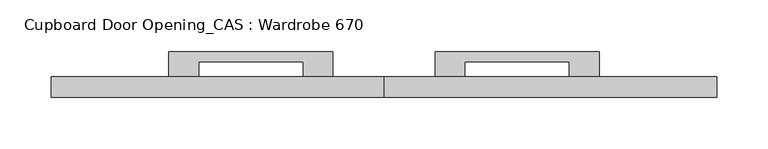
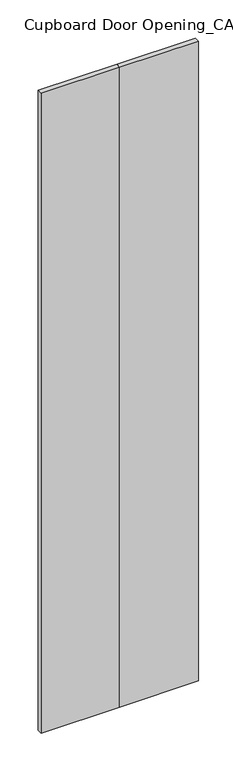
"""IFC4 building model written with IfcOpenShell, lengths in millimetres: furniture geometry, Cupboard Door Opening_CAS : Wardrobe 670."""

from ifc_helpers import new_model, si_unit, frame, origin, origin_with_axes, place, context, project, spatial, polyline, outline, extrude, source, transform, mapped, element, save


def cupboard_door_opening_cas_wardrobe_670_45ddcf94(model_context):
    return source(origin(), model_context, "Body", "SweptSolid", [
        extrude(outline(polyline([(175.0, 77.5), (335.0, 77.5), (335.0, 52.5), (306.0, 52.5), (306.0, 67.5), (204.0, 67.5), (204.0, 52.5), (175.0, 52.5), (175.0, 77.5)])), frame((0.0, 0.0, 987.5), z_axis=(0.0, 0.0, 1.0), x_axis=(1.0, 0.0, 0.0)), (0.0, 0.0, 1.0), 15.0),
        extrude(outline(polyline([(450.0, 52.5), (450.0, 32.5), (125.0, 32.5), (125.0, 52.5), (450.0, 52.5)])), origin_with_axes(), (0.0, 0.0, 1.0), 2795.0),
        extrude(outline(polyline([(75.0, 77.5), (75.0, 52.5), (46.0, 52.5), (46.0, 67.5), (-56.0, 67.5), (-56.0, 52.5), (-85.0, 52.5), (-85.0, 77.5), (75.0, 77.5)])), frame((0.0, 0.0, 987.5), z_axis=(0.0, 0.0, 1.0), x_axis=(1.0, 0.0, 0.0)), (0.0, 0.0, 1.0), 15.0),
        extrude(outline(polyline([(-200.0, 52.5), (125.0, 52.5), (125.0, 32.5), (-200.0, 32.5), (-200.0, 52.5)])), origin_with_axes(), (0.0, 0.0, 1.0), 2795.0),
    ])


if __name__ == "__main__":
    model = new_model("IFC4")
    model_context = context("Model", 3, world=origin())
    ifc_project = project(units=[si_unit("LENGTHUNIT", "METRE", prefix="MILLI")], contexts=[model_context])
    site = spatial("IfcSite", under=ifc_project)
    building = spatial("IfcBuilding", under=site)
    placement = place(None, origin())
    cupboard_door_opening_cas_wardrobe_670_shape = cupboard_door_opening_cas_wardrobe_670_45ddcf94(model_context)
    element("IfcFurniture", 1, ObjectType="Cupboard Door Opening_CAS : Wardrobe 670", at=placement, inside=building, context=model_context, shape_type="MappedRepresentation", body=[
        mapped(cupboard_door_opening_cas_wardrobe_670_shape, transform((0.0, 0.0, 0.0), x_axis=(1.0, 0.0, 0.0), y_axis=(0.0, 1.0, 0.0), z_axis=(0.0, 0.0, 1.0))),
    ])
    save(model, "model.ifc")
